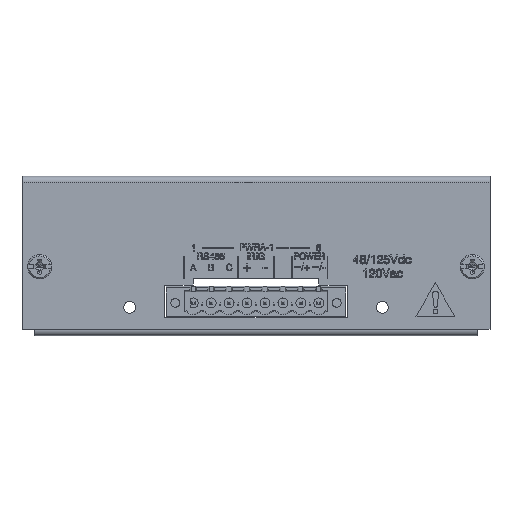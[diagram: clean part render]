
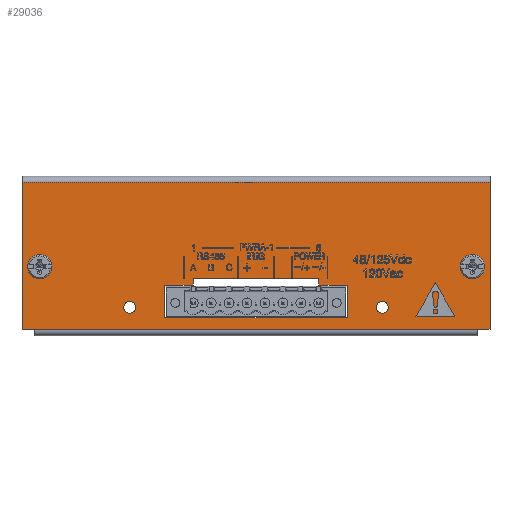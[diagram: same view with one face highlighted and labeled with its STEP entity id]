
A CAD part, top view. The second image highlights one B-rep face of the part: STEP entity #29036.
In plain terms, the highlighted planar face has unit normal (0, 0, 1) as drawn and (0, 1, 0) by its records, which use the part's own axes.
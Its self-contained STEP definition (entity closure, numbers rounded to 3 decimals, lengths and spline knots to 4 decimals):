
#1967=FACE_BOUND('',#5143,.T.);
#1968=FACE_BOUND('',#5144,.T.);
#1969=FACE_BOUND('',#5145,.T.);
#1970=FACE_BOUND('',#5146,.T.);
#1971=FACE_BOUND('',#5147,.T.);
#2116=PLANE('',#30988);
#3429=FACE_OUTER_BOUND('',#5142,.T.);
#5142=EDGE_LOOP('',(#20641,#20642,#20643,#20644,#20645,#20646,#20647,#20648));
#5143=EDGE_LOOP('',(#20649,#20650,#20651,#20652,#20653,#20654,#20655,#20656));
#5144=EDGE_LOOP('',(#20657));
#5145=EDGE_LOOP('',(#20658));
#5146=EDGE_LOOP('',(#20659,#20660));
#5147=EDGE_LOOP('',(#20661,#20662));
#7012=LINE('',#39864,#10196);
#7016=LINE('',#39873,#10200);
#7025=LINE('',#39900,#10209);
#7026=LINE('',#39904,#10210);
#7029=LINE('',#39910,#10213);
#7030=LINE('',#39914,#10214);
#7031=LINE('',#39915,#10215);
#7032=LINE('',#39916,#10216);
#7033=LINE('',#39919,#10217);
#7034=LINE('',#39921,#10218);
#7035=LINE('',#39923,#10219);
#7036=LINE('',#39925,#10220);
#7037=LINE('',#39927,#10221);
#7038=LINE('',#39929,#10222);
#7039=LINE('',#39931,#10223);
#7040=LINE('',#39932,#10224);
#10196=VECTOR('',#32921,0.3937);
#10200=VECTOR('',#32927,0.3937);
#10209=VECTOR('',#32948,0.3937);
#10210=VECTOR('',#32953,0.3937);
#10213=VECTOR('',#32958,0.3937);
#10214=VECTOR('',#32963,0.3937);
#10215=VECTOR('',#32964,0.3937);
#10216=VECTOR('',#32965,0.3937);
#10217=VECTOR('',#32966,0.3937);
#10218=VECTOR('',#32967,0.3937);
#10219=VECTOR('',#32968,0.3937);
#10220=VECTOR('',#32969,0.3937);
#10221=VECTOR('',#32970,0.3937);
#10222=VECTOR('',#32971,0.3937);
#10223=VECTOR('',#32972,0.3937);
#10224=VECTOR('',#32973,0.3937);
#13356=CIRCLE('',#30989,0.095);
#13357=CIRCLE('',#30990,0.095);
#13358=CIRCLE('',#30991,0.066);
#13359=CIRCLE('',#30992,0.066);
#13360=CIRCLE('',#30993,0.066);
#13361=CIRCLE('',#30994,0.066);
#13723=VERTEX_POINT('',#39861);
#13724=VERTEX_POINT('',#39863);
#13727=VERTEX_POINT('',#39870);
#13728=VERTEX_POINT('',#39872);
#13740=VERTEX_POINT('',#39899);
#13741=VERTEX_POINT('',#39903);
#13743=VERTEX_POINT('',#39909);
#13744=VERTEX_POINT('',#39913);
#13745=VERTEX_POINT('',#39917);
#13746=VERTEX_POINT('',#39918);
#13747=VERTEX_POINT('',#39920);
#13748=VERTEX_POINT('',#39922);
#13749=VERTEX_POINT('',#39924);
#13750=VERTEX_POINT('',#39926);
#13751=VERTEX_POINT('',#39928);
#13752=VERTEX_POINT('',#39930);
#13753=VERTEX_POINT('',#39933);
#13754=VERTEX_POINT('',#39935);
#13755=VERTEX_POINT('',#39937);
#13756=VERTEX_POINT('',#39938);
#13757=VERTEX_POINT('',#39941);
#13758=VERTEX_POINT('',#39942);
#16405=EDGE_CURVE('',#13724,#13723,#7012,.T.);
#16409=EDGE_CURVE('',#13728,#13727,#7016,.T.);
#16423=EDGE_CURVE('',#13740,#13724,#7025,.T.);
#16425=EDGE_CURVE('',#13728,#13741,#7026,.T.);
#16428=EDGE_CURVE('',#13743,#13740,#7029,.T.);
#16430=EDGE_CURVE('',#13744,#13723,#7030,.T.);
#16431=EDGE_CURVE('',#13744,#13741,#7031,.T.);
#16432=EDGE_CURVE('',#13727,#13743,#7032,.T.);
#16433=EDGE_CURVE('',#13745,#13746,#7033,.T.);
#16434=EDGE_CURVE('',#13746,#13747,#7034,.T.);
#16435=EDGE_CURVE('',#13747,#13748,#7035,.T.);
#16436=EDGE_CURVE('',#13748,#13749,#7036,.T.);
#16437=EDGE_CURVE('',#13749,#13750,#7037,.T.);
#16438=EDGE_CURVE('',#13750,#13751,#7038,.T.);
#16439=EDGE_CURVE('',#13751,#13752,#7039,.T.);
#16440=EDGE_CURVE('',#13752,#13745,#7040,.T.);
#16441=EDGE_CURVE('',#13753,#13753,#13356,.T.);
#16442=EDGE_CURVE('',#13754,#13754,#13357,.T.);
#16443=EDGE_CURVE('',#13755,#13756,#13358,.T.);
#16444=EDGE_CURVE('',#13756,#13755,#13359,.T.);
#16445=EDGE_CURVE('',#13757,#13758,#13360,.T.);
#16446=EDGE_CURVE('',#13758,#13757,#13361,.T.);
#20641=ORIENTED_EDGE('',*,*,#16423,.T.);
#20642=ORIENTED_EDGE('',*,*,#16405,.T.);
#20643=ORIENTED_EDGE('',*,*,#16430,.F.);
#20644=ORIENTED_EDGE('',*,*,#16431,.T.);
#20645=ORIENTED_EDGE('',*,*,#16425,.F.);
#20646=ORIENTED_EDGE('',*,*,#16409,.T.);
#20647=ORIENTED_EDGE('',*,*,#16432,.T.);
#20648=ORIENTED_EDGE('',*,*,#16428,.T.);
#20649=ORIENTED_EDGE('',*,*,#16433,.T.);
#20650=ORIENTED_EDGE('',*,*,#16434,.T.);
#20651=ORIENTED_EDGE('',*,*,#16435,.T.);
#20652=ORIENTED_EDGE('',*,*,#16436,.T.);
#20653=ORIENTED_EDGE('',*,*,#16437,.T.);
#20654=ORIENTED_EDGE('',*,*,#16438,.T.);
#20655=ORIENTED_EDGE('',*,*,#16439,.T.);
#20656=ORIENTED_EDGE('',*,*,#16440,.T.);
#20657=ORIENTED_EDGE('',*,*,#16441,.T.);
#20658=ORIENTED_EDGE('',*,*,#16442,.T.);
#20659=ORIENTED_EDGE('',*,*,#16443,.T.);
#20660=ORIENTED_EDGE('',*,*,#16444,.T.);
#20661=ORIENTED_EDGE('',*,*,#16445,.T.);
#20662=ORIENTED_EDGE('',*,*,#16446,.T.);
#29036=ADVANCED_FACE('',(#3429,#1967,#1968,#1969,#1970,#1971),#2116,.T.);
#30988=AXIS2_PLACEMENT_3D('',#39912,#32961,#32962);
#30989=AXIS2_PLACEMENT_3D('',#39934,#32974,#32975);
#30990=AXIS2_PLACEMENT_3D('',#39936,#32976,#32977);
#30991=AXIS2_PLACEMENT_3D('',#39939,#32978,#32979);
#30992=AXIS2_PLACEMENT_3D('',#39940,#32980,#32981);
#30993=AXIS2_PLACEMENT_3D('',#39943,#32982,#32983);
#30994=AXIS2_PLACEMENT_3D('',#39944,#32984,#32985);
#32921=DIRECTION('',(1.,0.,0.));
#32927=DIRECTION('',(1.,0.,0.));
#32948=DIRECTION('',(0.,0.,-1.));
#32953=DIRECTION('',(0.,0.,-1.));
#32958=DIRECTION('',(1.,0.,0.));
#32961=DIRECTION('center_axis',(0.,1.,0.));
#32962=DIRECTION('ref_axis',(0.,0.,1.));
#32963=DIRECTION('',(0.,0.,1.));
#32964=DIRECTION('',(-1.,0.,0.));
#32965=DIRECTION('',(0.,0.,1.));
#32966=DIRECTION('',(0.,0.,1.));
#32967=DIRECTION('',(-1.,0.,0.));
#32968=DIRECTION('',(0.,0.,-1.));
#32969=DIRECTION('',(1.,0.,0.));
#32970=DIRECTION('',(0.,0.,-1.));
#32971=DIRECTION('',(1.,0.,0.));
#32972=DIRECTION('',(0.,0.,1.));
#32973=DIRECTION('',(1.,0.,0.));
#32974=DIRECTION('center_axis',(0.,-1.,0.));
#32975=DIRECTION('ref_axis',(1.,0.,0.));
#32976=DIRECTION('center_axis',(0.,-1.,0.));
#32977=DIRECTION('ref_axis',(1.,0.,0.));
#32978=DIRECTION('center_axis',(0.,-1.,0.));
#32979=DIRECTION('ref_axis',(1.,0.,0.));
#32980=DIRECTION('center_axis',(0.,-1.,0.));
#32981=DIRECTION('ref_axis',(1.,0.,0.));
#32982=DIRECTION('center_axis',(0.,-1.,0.));
#32983=DIRECTION('ref_axis',(-1.,0.,0.));
#32984=DIRECTION('center_axis',(0.,-1.,0.));
#32985=DIRECTION('ref_axis',(-1.,0.,0.));
#39861=CARTESIAN_POINT('',(2.61,0.0359,0.82));
#39863=CARTESIAN_POINT('',(2.475,0.0359,0.82));
#39864=CARTESIAN_POINT('',(1.2787,0.0359,0.82));
#39870=CARTESIAN_POINT('',(-2.475,0.0359,0.82));
#39872=CARTESIAN_POINT('',(-2.61,0.0359,0.82));
#39873=CARTESIAN_POINT('',(-1.2851,0.0359,0.82));
#39899=CARTESIAN_POINT('',(2.475,0.0359,0.8229));
#39900=CARTESIAN_POINT('',(2.475,0.0359,0.445));
#39903=CARTESIAN_POINT('',(-2.61,0.0359,-0.8229));
#39904=CARTESIAN_POINT('',(-2.61,0.0359,0.89));
#39909=CARTESIAN_POINT('',(-2.475,0.0359,0.8229));
#39910=CARTESIAN_POINT('',(-1.305,0.0359,0.8229));
#39912=CARTESIAN_POINT('Origin',(0.,0.0359,0.));
#39913=CARTESIAN_POINT('',(2.61,0.0359,-0.8229));
#39914=CARTESIAN_POINT('',(2.61,0.0359,-0.89));
#39915=CARTESIAN_POINT('',(1.305,0.0359,-0.8229));
#39916=CARTESIAN_POINT('',(-2.475,0.0359,0.445));
#39917=CARTESIAN_POINT('',(1.02,0.0359,0.325));
#39918=CARTESIAN_POINT('',(1.02,0.0359,0.69));
#39919=CARTESIAN_POINT('',(1.02,0.0359,0.345));
#39920=CARTESIAN_POINT('',(-1.02,0.0359,0.69));
#39921=CARTESIAN_POINT('',(-0.51,0.0359,0.69));
#39922=CARTESIAN_POINT('',(-1.02,0.0359,0.325));
#39923=CARTESIAN_POINT('',(-1.02,0.0359,0.125));
#39924=CARTESIAN_POINT('',(-0.7,0.0359,0.325));
#39925=CARTESIAN_POINT('',(-1.02,0.0359,0.325));
#39926=CARTESIAN_POINT('',(-0.7,0.0359,0.25));
#39927=CARTESIAN_POINT('',(-0.7,0.0359,0.325));
#39928=CARTESIAN_POINT('',(0.7,0.0359,0.25));
#39929=CARTESIAN_POINT('',(0.51,0.0359,0.25));
#39930=CARTESIAN_POINT('',(0.7,0.0359,0.325));
#39931=CARTESIAN_POINT('',(0.7,0.0359,0.25));
#39932=CARTESIAN_POINT('',(0.7,0.0359,0.325));
#39933=CARTESIAN_POINT('',(-2.507,0.0359,0.12));
#39934=CARTESIAN_POINT('Origin',(-2.412,0.0359,0.12));
#39935=CARTESIAN_POINT('',(2.317,0.0359,0.12));
#39936=CARTESIAN_POINT('Origin',(2.412,0.0359,0.12));
#39937=CARTESIAN_POINT('',(-1.344,0.0359,0.572));
#39938=CARTESIAN_POINT('',(-1.476,0.0359,0.572));
#39939=CARTESIAN_POINT('Origin',(-1.41,0.0359,0.572));
#39940=CARTESIAN_POINT('Origin',(-1.41,0.0359,0.572));
#39941=CARTESIAN_POINT('',(1.344,0.0359,0.572));
#39942=CARTESIAN_POINT('',(1.476,0.0359,0.572));
#39943=CARTESIAN_POINT('Origin',(1.41,0.0359,0.572));
#39944=CARTESIAN_POINT('Origin',(1.41,0.0359,0.572));
